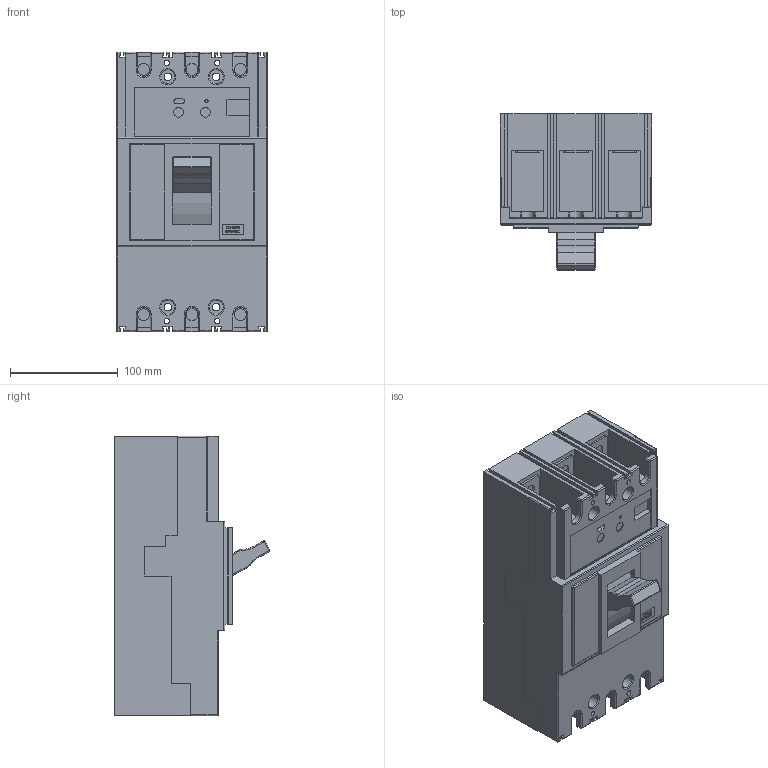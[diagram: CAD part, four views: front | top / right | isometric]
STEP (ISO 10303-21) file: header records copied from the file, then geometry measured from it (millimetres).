
FILE_DESCRIPTION((''),'2;1');
FILE_NAME('E630NE3630','2012-09-20T',('cmahecha'),(''),'PRO/ENGINEER BY PARAMETRIC TECHNOLOGY CORPORATION, 2010280','PRO/ENGINEER BY PARAMETRIC TECHNOLOGY CORPORATION, 2010280','');
FILE_SCHEMA(('CONFIG_CONTROL_DESIGN'));
Length unit declared in the file: millimetre
Products named in the file (1): E630NE3630
Bounding box: 140.4 x 144.93 x 260 mm (x, y, z)
Volume: 3299828.1 mm3; surface area: 221612.3 mm2
Topology: 1 solids, 1 shells, 746 faces, 2026 edges, 1321 vertices
Faces by surface type: plane 573, cylinder 141, torus 18, sphere 14
Entity records: 23309 total; most frequent: CARTESIAN_POINT 4234, ORIENTED_EDGE 4052, DIRECTION 3761, EDGE_CURVE 2026, VECTOR 1737, LINE 1737, VERTEX_POINT 1321, AXIS2_PLACEMENT_3D 1012
